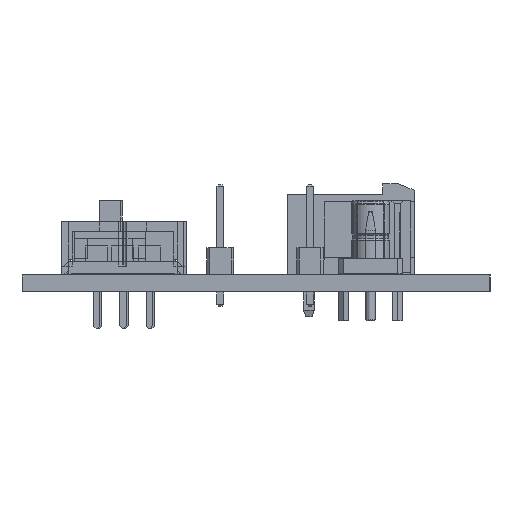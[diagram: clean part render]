
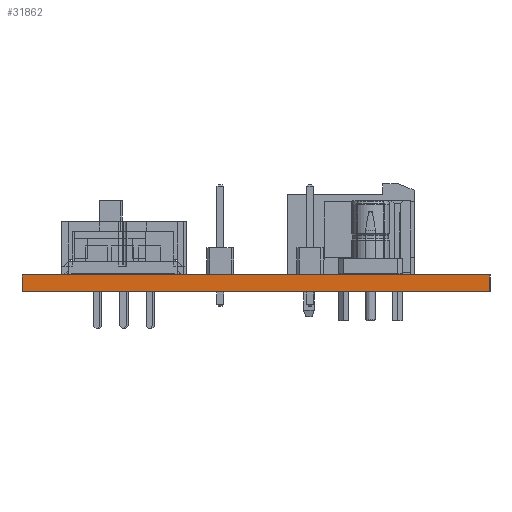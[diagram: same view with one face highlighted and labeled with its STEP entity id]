
A CAD part, left-side view. The second image highlights one B-rep face of the part: STEP entity #31862.
In plain terms, the highlighted planar face has unit normal (-1, 0, 0).
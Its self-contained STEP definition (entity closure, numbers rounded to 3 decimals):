
#31681 = PLANE('',#31682);
#31682 = AXIS2_PLACEMENT_3D('',#31683,#31684,#31685);
#31683 = CARTESIAN_POINT('',(552.66,-244.36,0.));
#31684 = DIRECTION('',(0.,-1.,0.));
#31685 = DIRECTION('',(-1.,0.,0.));
#31706 = VERTEX_POINT('',#31707);
#31707 = CARTESIAN_POINT('',(70.06,-244.36,1.58));
#31721 = PLANE('',#31722);
#31722 = AXIS2_PLACEMENT_3D('',#31723,#31724,#31725);
#31723 = CARTESIAN_POINT('',(311.36,-222.135,1.58));
#31724 = DIRECTION('',(-0.,-0.,-1.));
#31725 = DIRECTION('',(-1.,0.,0.));
#31733 = EDGE_CURVE('',#31734,#31706,#31736,.T.);
#31734 = VERTEX_POINT('',#31735);
#31735 = CARTESIAN_POINT('',(70.06,-244.36,0.));
#31736 = SURFACE_CURVE('',#31737,(#31741,#31748),.PCURVE_S1.);
#31737 = LINE('',#31738,#31739);
#31738 = CARTESIAN_POINT('',(70.06,-244.36,0.));
#31739 = VECTOR('',#31740,1.);
#31740 = DIRECTION('',(0.,0.,1.));
#31741 = PCURVE('',#31681,#31742);
#31742 = DEFINITIONAL_REPRESENTATION('',(#31743),#31747);
#31743 = LINE('',#31744,#31745);
#31744 = CARTESIAN_POINT('',(482.6,0.));
#31745 = VECTOR('',#31746,1.);
#31746 = DIRECTION('',(0.,-1.));
#31747 = ( GEOMETRIC_REPRESENTATION_CONTEXT(2) 
PARAMETRIC_REPRESENTATION_CONTEXT() REPRESENTATION_CONTEXT('2D SPACE',''
  ) );
#31748 = PCURVE('',#31749,#31754);
#31749 = PLANE('',#31750);
#31750 = AXIS2_PLACEMENT_3D('',#31751,#31752,#31753);
#31751 = CARTESIAN_POINT('',(70.06,-244.36,0.));
#31752 = DIRECTION('',(-1.,0.,0.));
#31753 = DIRECTION('',(0.,1.,0.));
#31754 = DEFINITIONAL_REPRESENTATION('',(#31755),#31759);
#31755 = LINE('',#31756,#31757);
#31756 = CARTESIAN_POINT('',(0.,0.));
#31757 = VECTOR('',#31758,1.);
#31758 = DIRECTION('',(0.,-1.));
#31759 = ( GEOMETRIC_REPRESENTATION_CONTEXT(2) 
PARAMETRIC_REPRESENTATION_CONTEXT() REPRESENTATION_CONTEXT('2D SPACE',''
  ) );
#31775 = PLANE('',#31776);
#31776 = AXIS2_PLACEMENT_3D('',#31777,#31778,#31779);
#31777 = CARTESIAN_POINT('',(311.36,-222.135,0.));
#31778 = DIRECTION('',(-0.,-0.,-1.));
#31779 = DIRECTION('',(-1.,0.,0.));
#31808 = PLANE('',#31809);
#31809 = AXIS2_PLACEMENT_3D('',#31810,#31811,#31812);
#31810 = CARTESIAN_POINT('',(70.06,-199.91,0.));
#31811 = DIRECTION('',(0.,1.,0.));
#31812 = DIRECTION('',(1.,0.,0.));
#31862 = ADVANCED_FACE('',(#31863),#31749,.T.);
#31863 = FACE_BOUND('',#31864,.T.);
#31864 = EDGE_LOOP('',(#31865,#31866,#31889,#31912));
#31865 = ORIENTED_EDGE('',*,*,#31733,.T.);
#31866 = ORIENTED_EDGE('',*,*,#31867,.T.);
#31867 = EDGE_CURVE('',#31706,#31868,#31870,.T.);
#31868 = VERTEX_POINT('',#31869);
#31869 = CARTESIAN_POINT('',(70.06,-199.91,1.58));
#31870 = SURFACE_CURVE('',#31871,(#31875,#31882),.PCURVE_S1.);
#31871 = LINE('',#31872,#31873);
#31872 = CARTESIAN_POINT('',(70.06,-244.36,1.58));
#31873 = VECTOR('',#31874,1.);
#31874 = DIRECTION('',(0.,1.,0.));
#31875 = PCURVE('',#31749,#31876);
#31876 = DEFINITIONAL_REPRESENTATION('',(#31877),#31881);
#31877 = LINE('',#31878,#31879);
#31878 = CARTESIAN_POINT('',(0.,-1.58));
#31879 = VECTOR('',#31880,1.);
#31880 = DIRECTION('',(1.,0.));
#31881 = ( GEOMETRIC_REPRESENTATION_CONTEXT(2) 
PARAMETRIC_REPRESENTATION_CONTEXT() REPRESENTATION_CONTEXT('2D SPACE',''
  ) );
#31882 = PCURVE('',#31721,#31883);
#31883 = DEFINITIONAL_REPRESENTATION('',(#31884),#31888);
#31884 = LINE('',#31885,#31886);
#31885 = CARTESIAN_POINT('',(241.3,-22.225));
#31886 = VECTOR('',#31887,1.);
#31887 = DIRECTION('',(0.,1.));
#31888 = ( GEOMETRIC_REPRESENTATION_CONTEXT(2) 
PARAMETRIC_REPRESENTATION_CONTEXT() REPRESENTATION_CONTEXT('2D SPACE',''
  ) );
#31889 = ORIENTED_EDGE('',*,*,#31890,.F.);
#31890 = EDGE_CURVE('',#31891,#31868,#31893,.T.);
#31891 = VERTEX_POINT('',#31892);
#31892 = CARTESIAN_POINT('',(70.06,-199.91,0.));
#31893 = SURFACE_CURVE('',#31894,(#31898,#31905),.PCURVE_S1.);
#31894 = LINE('',#31895,#31896);
#31895 = CARTESIAN_POINT('',(70.06,-199.91,0.));
#31896 = VECTOR('',#31897,1.);
#31897 = DIRECTION('',(0.,0.,1.));
#31898 = PCURVE('',#31749,#31899);
#31899 = DEFINITIONAL_REPRESENTATION('',(#31900),#31904);
#31900 = LINE('',#31901,#31902);
#31901 = CARTESIAN_POINT('',(44.45,0.));
#31902 = VECTOR('',#31903,1.);
#31903 = DIRECTION('',(0.,-1.));
#31904 = ( GEOMETRIC_REPRESENTATION_CONTEXT(2) 
PARAMETRIC_REPRESENTATION_CONTEXT() REPRESENTATION_CONTEXT('2D SPACE',''
  ) );
#31905 = PCURVE('',#31808,#31906);
#31906 = DEFINITIONAL_REPRESENTATION('',(#31907),#31911);
#31907 = LINE('',#31908,#31909);
#31908 = CARTESIAN_POINT('',(0.,0.));
#31909 = VECTOR('',#31910,1.);
#31910 = DIRECTION('',(0.,-1.));
#31911 = ( GEOMETRIC_REPRESENTATION_CONTEXT(2) 
PARAMETRIC_REPRESENTATION_CONTEXT() REPRESENTATION_CONTEXT('2D SPACE',''
  ) );
#31912 = ORIENTED_EDGE('',*,*,#31913,.F.);
#31913 = EDGE_CURVE('',#31734,#31891,#31914,.T.);
#31914 = SURFACE_CURVE('',#31915,(#31919,#31926),.PCURVE_S1.);
#31915 = LINE('',#31916,#31917);
#31916 = CARTESIAN_POINT('',(70.06,-244.36,0.));
#31917 = VECTOR('',#31918,1.);
#31918 = DIRECTION('',(0.,1.,0.));
#31919 = PCURVE('',#31749,#31920);
#31920 = DEFINITIONAL_REPRESENTATION('',(#31921),#31925);
#31921 = LINE('',#31922,#31923);
#31922 = CARTESIAN_POINT('',(0.,0.));
#31923 = VECTOR('',#31924,1.);
#31924 = DIRECTION('',(1.,0.));
#31925 = ( GEOMETRIC_REPRESENTATION_CONTEXT(2) 
PARAMETRIC_REPRESENTATION_CONTEXT() REPRESENTATION_CONTEXT('2D SPACE',''
  ) );
#31926 = PCURVE('',#31775,#31927);
#31927 = DEFINITIONAL_REPRESENTATION('',(#31928),#31932);
#31928 = LINE('',#31929,#31930);
#31929 = CARTESIAN_POINT('',(241.3,-22.225));
#31930 = VECTOR('',#31931,1.);
#31931 = DIRECTION('',(0.,1.));
#31932 = ( GEOMETRIC_REPRESENTATION_CONTEXT(2) 
PARAMETRIC_REPRESENTATION_CONTEXT() REPRESENTATION_CONTEXT('2D SPACE',''
  ) );
